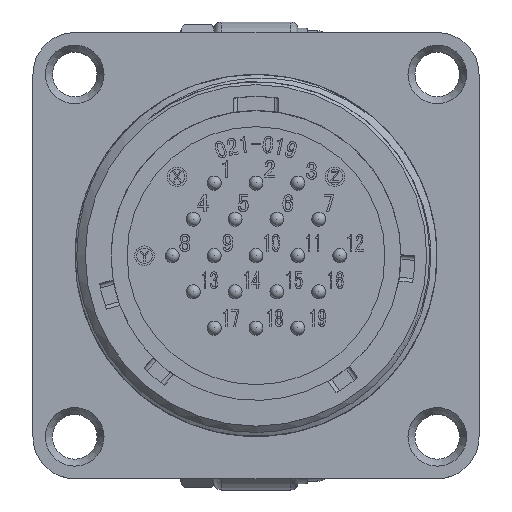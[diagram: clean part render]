
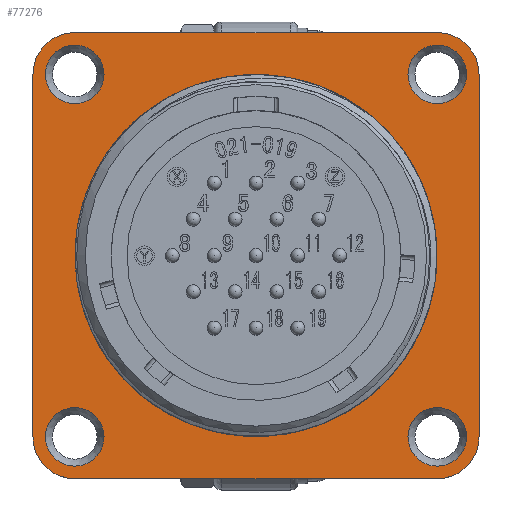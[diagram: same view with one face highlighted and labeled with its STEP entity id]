
A CAD part, top view. The second image highlights one B-rep face of the part: STEP entity #77276.
In plain terms, the highlighted planar face has unit normal (0, 0, 1).
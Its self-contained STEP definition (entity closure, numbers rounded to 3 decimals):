
#8 = ORIENTED_EDGE ( 'NONE', *, *, #51740, .F. ) ;
#18 = AXIS2_PLACEMENT_3D ( 'NONE', #48223, #54635, #4603 ) ;
#1084 = VECTOR ( 'NONE', #25522, 1000. ) ;
#1955 = EDGE_CURVE ( 'NONE', #57031, #57031, #26292, .T. ) ;
#3234 = LINE ( 'NONE', #12033, #79416 ) ;
#3953 = VECTOR ( 'NONE', #63798, 1000. ) ;
#4086 = DIRECTION ( 'NONE',  ( 0., 0., 1. ) ) ;
#4603 = DIRECTION ( 'NONE',  ( 1., 0., 0. ) ) ;
#5211 = CARTESIAN_POINT ( 'NONE',  ( 13., -13., -10.5 ) ) ;
#5543 = AXIS2_PLACEMENT_3D ( 'NONE', #6665, #6397, #50870 ) ;
#6384 = CARTESIAN_POINT ( 'NONE',  ( -13., -13., -10.5 ) ) ;
#6397 = DIRECTION ( 'NONE',  ( 0., 0., 1. ) ) ;
#6665 = CARTESIAN_POINT ( 'NONE',  ( 13., 13., -10.5 ) ) ;
#7327 = CARTESIAN_POINT ( 'NONE',  ( 16., 13., -10.5 ) ) ;
#7476 = CARTESIAN_POINT ( 'NONE',  ( 13., 16., -10.5 ) ) ;
#8354 = VERTEX_POINT ( 'NONE', #42042 ) ;
#9297 = EDGE_LOOP ( 'NONE', ( #71643 ) ) ;
#10012 = AXIS2_PLACEMENT_3D ( 'NONE', #19229, #81965, #76447 ) ;
#11159 = EDGE_LOOP ( 'NONE', ( #19497 ) ) ;
#12033 = CARTESIAN_POINT ( 'NONE',  ( -16., 13., -10.5 ) ) ;
#13352 = CIRCLE ( 'NONE', #18, 2.1 ) ;
#13706 = EDGE_LOOP ( 'NONE', ( #38162 ) ) ;
#15791 = ORIENTED_EDGE ( 'NONE', *, *, #25625, .F. ) ;
#16078 = AXIS2_PLACEMENT_3D ( 'NONE', #24317, #31432, #36932 ) ;
#16652 = EDGE_CURVE ( 'NONE', #69930, #69930, #13352, .T. ) ;
#17487 = ORIENTED_EDGE ( 'NONE', *, *, #75488, .F. ) ;
#17650 = DIRECTION ( 'NONE',  ( -1., 0., 0. ) ) ;
#17749 = VERTEX_POINT ( 'NONE', #51881 ) ;
#17933 = LINE ( 'NONE', #64146, #1084 ) ;
#18528 = ORIENTED_EDGE ( 'NONE', *, *, #41925, .F. ) ;
#18721 = CIRCLE ( 'NONE', #61029, 12.98 ) ;
#18996 = CARTESIAN_POINT ( 'NONE',  ( 15.1, -13., -10.5 ) ) ;
#19229 = CARTESIAN_POINT ( 'NONE',  ( -13., -13., -10.5 ) ) ;
#19237 = EDGE_CURVE ( 'NONE', #49076, #49076, #18721, .T. ) ;
#19418 = EDGE_CURVE ( 'NONE', #8354, #66768, #58164, .T. ) ;
#19497 = ORIENTED_EDGE ( 'NONE', *, *, #16652, .F. ) ;
#19848 = CARTESIAN_POINT ( 'NONE',  ( -10.9, -13., -10.5 ) ) ;
#20102 = CARTESIAN_POINT ( 'NONE',  ( 13., -16., -10.5 ) ) ;
#20829 = LINE ( 'NONE', #7476, #3953 ) ;
#24317 = CARTESIAN_POINT ( 'NONE',  ( -13., 13., -10.5 ) ) ;
#24590 = FACE_BOUND ( 'NONE', #9297, .T. ) ;
#25522 = DIRECTION ( 'NONE',  ( 0., -1., 0. ) ) ;
#25625 = EDGE_CURVE ( 'NONE', #64659, #17749, #41670, .T. ) ;
#26292 = CIRCLE ( 'NONE', #5543, 2.1 ) ;
#27307 = DIRECTION ( 'NONE',  ( 0., 0., -1. ) ) ;
#28721 = CARTESIAN_POINT ( 'NONE',  ( 16., -13., -10.5 ) ) ;
#29028 = DIRECTION ( 'NONE',  ( 1., 0., 0. ) ) ;
#30033 = VERTEX_POINT ( 'NONE', #7327 ) ;
#30342 = CARTESIAN_POINT ( 'NONE',  ( -10.9, 13., -10.5 ) ) ;
#31432 = DIRECTION ( 'NONE',  ( 0., 0., -1. ) ) ;
#31439 = FACE_BOUND ( 'NONE', #13706, .T. ) ;
#34466 = AXIS2_PLACEMENT_3D ( 'NONE', #6384, #43379, #56938 ) ;
#34801 = CARTESIAN_POINT ( 'NONE',  ( -16., -13., -10.5 ) ) ;
#35783 = ORIENTED_EDGE ( 'NONE', *, *, #74118, .F. ) ;
#36101 = CARTESIAN_POINT ( 'NONE',  ( 15.1, 13., -10.5 ) ) ;
#36347 = PLANE ( 'NONE',  #40886 ) ;
#36360 = CARTESIAN_POINT ( 'NONE',  ( 12.98, 0., -10.5 ) ) ;
#36932 = DIRECTION ( 'NONE',  ( 1., 0., 0. ) ) ;
#38162 = ORIENTED_EDGE ( 'NONE', *, *, #40123, .F. ) ;
#40123 = EDGE_CURVE ( 'NONE', #77799, #77799, #69654, .T. ) ;
#40226 = CARTESIAN_POINT ( 'NONE',  ( 13., 13., -10.5 ) ) ;
#40427 = EDGE_CURVE ( 'NONE', #43927, #30033, #79496, .T. ) ;
#40886 = AXIS2_PLACEMENT_3D ( 'NONE', #74282, #4086, #80394 ) ;
#41064 = AXIS2_PLACEMENT_3D ( 'NONE', #66328, #53627, #29028 ) ;
#41346 = FACE_BOUND ( 'NONE', #11159, .T. ) ;
#41670 = LINE ( 'NONE', #43569, #63391 ) ;
#41925 = EDGE_CURVE ( 'NONE', #30033, #54110, #17933, .T. ) ;
#42042 = CARTESIAN_POINT ( 'NONE',  ( -16., 13., -10.5 ) ) ;
#42778 = DIRECTION ( 'NONE',  ( 1., 0., 0. ) ) ;
#42966 = ORIENTED_EDGE ( 'NONE', *, *, #45311, .F. ) ;
#43379 = DIRECTION ( 'NONE',  ( 0., 0., -1. ) ) ;
#43569 = CARTESIAN_POINT ( 'NONE',  ( 13., -16., -10.5 ) ) ;
#43927 = VERTEX_POINT ( 'NONE', #50717 ) ;
#44601 = VERTEX_POINT ( 'NONE', #34801 ) ;
#45311 = EDGE_CURVE ( 'NONE', #73789, #73789, #78077, .T. ) ;
#46873 = AXIS2_PLACEMENT_3D ( 'NONE', #40226, #27307, #58770 ) ;
#47293 = FACE_BOUND ( 'NONE', #70162, .T. ) ;
#47829 = CARTESIAN_POINT ( 'NONE',  ( -13., 16., -10.5 ) ) ;
#47985 = ORIENTED_EDGE ( 'NONE', *, *, #76951, .F. ) ;
#48223 = CARTESIAN_POINT ( 'NONE',  ( -13., 13., -10.5 ) ) ;
#49076 = VERTEX_POINT ( 'NONE', #36360 ) ;
#50717 = CARTESIAN_POINT ( 'NONE',  ( 13., 16., -10.5 ) ) ;
#50870 = DIRECTION ( 'NONE',  ( 1., 0., 0. ) ) ;
#51740 = EDGE_CURVE ( 'NONE', #54110, #64659, #64289, .T. ) ;
#51881 = CARTESIAN_POINT ( 'NONE',  ( -13., -16., -10.5 ) ) ;
#53627 = DIRECTION ( 'NONE',  ( 0., 0., 1. ) ) ;
#53752 = ORIENTED_EDGE ( 'NONE', *, *, #40427, .F. ) ;
#54110 = VERTEX_POINT ( 'NONE', #28721 ) ;
#54635 = DIRECTION ( 'NONE',  ( 0., 0., 1. ) ) ;
#55524 = CARTESIAN_POINT ( 'NONE',  ( 0., 0., -10.5 ) ) ;
#55723 = AXIS2_PLACEMENT_3D ( 'NONE', #5211, #68774, #17650 ) ;
#56131 = ORIENTED_EDGE ( 'NONE', *, *, #1955, .F. ) ;
#56938 = DIRECTION ( 'NONE',  ( 1., 0., 0. ) ) ;
#57031 = VERTEX_POINT ( 'NONE', #36101 ) ;
#58164 = CIRCLE ( 'NONE', #16078, 3. ) ;
#58168 = FACE_BOUND ( 'NONE', #60459, .T. ) ;
#58686 = CIRCLE ( 'NONE', #34466, 3. ) ;
#58770 = DIRECTION ( 'NONE',  ( -1., 0., 0. ) ) ;
#60459 = EDGE_LOOP ( 'NONE', ( #56131 ) ) ;
#60768 = DIRECTION ( 'NONE',  ( 0., 0., -1. ) ) ;
#61029 = AXIS2_PLACEMENT_3D ( 'NONE', #55524, #60768, #42778 ) ;
#63391 = VECTOR ( 'NONE', #63452, 1000. ) ;
#63452 = DIRECTION ( 'NONE',  ( -1., 0., 0. ) ) ;
#63798 = DIRECTION ( 'NONE',  ( 1., 0., 0. ) ) ;
#64146 = CARTESIAN_POINT ( 'NONE',  ( 16., 13., -10.5 ) ) ;
#64289 = CIRCLE ( 'NONE', #55723, 3. ) ;
#64659 = VERTEX_POINT ( 'NONE', #20102 ) ;
#66328 = CARTESIAN_POINT ( 'NONE',  ( 13., -13., -10.5 ) ) ;
#66768 = VERTEX_POINT ( 'NONE', #47829 ) ;
#68774 = DIRECTION ( 'NONE',  ( 0., 0., -1. ) ) ;
#69239 = DIRECTION ( 'NONE',  ( 0., 1., 0. ) ) ;
#69654 = CIRCLE ( 'NONE', #41064, 2.1 ) ;
#69930 = VERTEX_POINT ( 'NONE', #30342 ) ;
#70162 = EDGE_LOOP ( 'NONE', ( #42966 ) ) ;
#71247 = EDGE_LOOP ( 'NONE', ( #17487, #15791, #8, #18528, #53752, #47985, #78956, #35783 ) ) ;
#71643 = ORIENTED_EDGE ( 'NONE', *, *, #19237, .T. ) ;
#73789 = VERTEX_POINT ( 'NONE', #19848 ) ;
#74118 = EDGE_CURVE ( 'NONE', #44601, #8354, #3234, .T. ) ;
#74282 = CARTESIAN_POINT ( 'NONE',  ( -13., -13., -10.5 ) ) ;
#75012 = FACE_OUTER_BOUND ( 'NONE', #71247, .T. ) ;
#75488 = EDGE_CURVE ( 'NONE', #17749, #44601, #58686, .T. ) ;
#76447 = DIRECTION ( 'NONE',  ( 1., 0., 0. ) ) ;
#76951 = EDGE_CURVE ( 'NONE', #66768, #43927, #20829, .T. ) ;
#77276 = ADVANCED_FACE ( 'NONE', ( #75012, #47293, #31439, #58168, #41346, #24590 ), #36347, .T. ) ;
#77799 = VERTEX_POINT ( 'NONE', #18996 ) ;
#78077 = CIRCLE ( 'NONE', #10012, 2.1 ) ;
#78956 = ORIENTED_EDGE ( 'NONE', *, *, #19418, .F. ) ;
#79416 = VECTOR ( 'NONE', #69239, 1000. ) ;
#79496 = CIRCLE ( 'NONE', #46873, 3. ) ;
#80394 = DIRECTION ( 'NONE',  ( 1., 0., 0. ) ) ;
#81965 = DIRECTION ( 'NONE',  ( 0., 0., 1. ) ) ;
